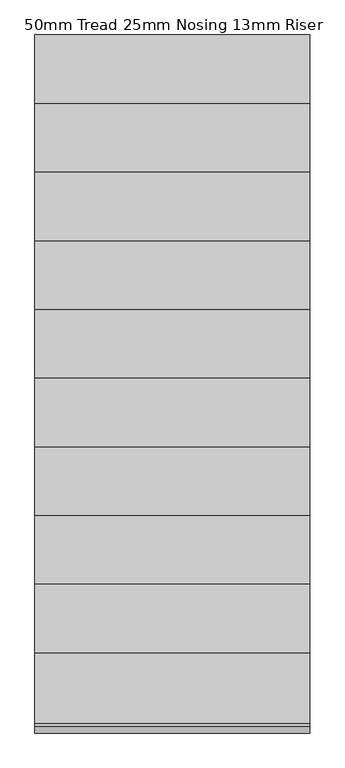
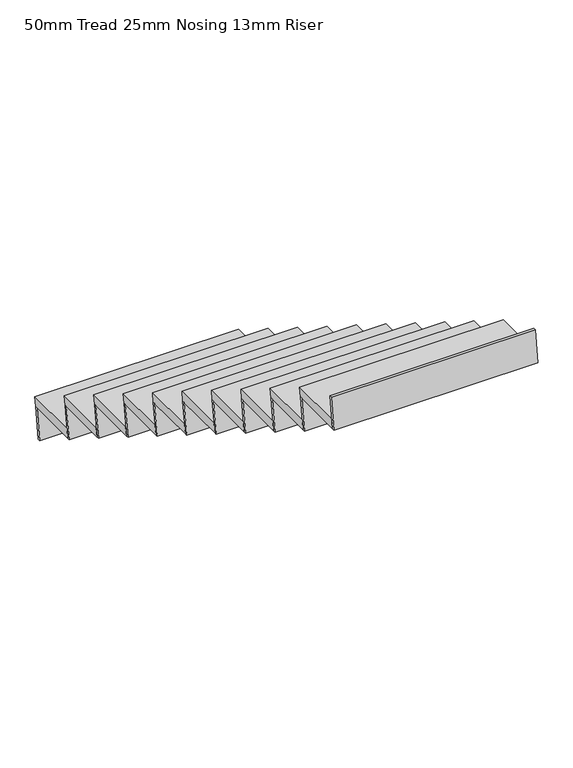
"""IFC4 building model written with IfcOpenShell, lengths in millimetres: stair flight geometry, 50mm Tread 25mm Nosing 13mm Riser."""

from ifc_helpers import new_model, si_unit, frame, origin, place, context, project, spatial, polyline, outline, extrude, source, transform, mapped, element, save


def stair_flight_50mm_tread_25mm_nosing_13mm_riser_8a1a16b7(model_context):
    return source(origin(), model_context, "Body", "SweptSolid", [
        extrude(outline(polyline([(29023.5799804, 2072.7272727), (29323.5799804, 2072.7272727), (29316.3431383, 2022.7272727), (29016.3431383, 2022.7272727), (29023.5799804, 2072.7272727)])), frame((26261.8999097, 0.0, 0.0), z_axis=(1.0, 0.0, 0.0), x_axis=(0.0, 1.0, 0.0)), (0.0, 0.0, 1.0), 1100.0),
        extrude(outline(polyline([(29316.3431383, 2022.7272727), (29291.3431383, 1850.0), (29278.7128872, 1850.0), (29303.7128872, 2022.7272727), (29316.3431383, 2022.7272727)])), frame((26261.8999097, 0.0, 0.0), z_axis=(1.0, 0.0, 0.0), x_axis=(0.0, 1.0, 0.0)), (0.0, 0.0, 1.0), 1100.0),
        extrude(outline(polyline([(29041.3431383, 2195.4545455), (29016.3431383, 2022.7272727), (29003.7128872, 2022.7272727), (29028.7128872, 2195.4545455), (29041.3431383, 2195.4545455)])), frame((26261.8999097, 0.0, 0.0), z_axis=(1.0, 0.0, 0.0), x_axis=(0.0, 1.0, 0.0)), (0.0, 0.0, 1.0), 1100.0),
        extrude(outline(polyline([(28748.5799804, 2245.4545455), (29048.5799804, 2245.4545455), (29041.3431383, 2195.4545455), (28741.3431383, 2195.4545455), (28748.5799804, 2245.4545455)])), frame((26261.8999097, 0.0, 0.0), z_axis=(1.0, 0.0, 0.0), x_axis=(0.0, 1.0, 0.0)), (0.0, 0.0, 1.0), 1100.0),
        extrude(outline(polyline([(28766.3431383, 2368.1818182), (28741.3431383, 2195.4545455), (28728.7128872, 2195.4545455), (28753.7128872, 2368.1818182), (28766.3431383, 2368.1818182)])), frame((26261.8999097, 0.0, 0.0), z_axis=(1.0, 0.0, 0.0), x_axis=(0.0, 1.0, 0.0)), (0.0, 0.0, 1.0), 1100.0),
        extrude(outline(polyline([(28473.5799804, 2418.1818182), (28773.5799804, 2418.1818182), (28766.3431383, 2368.1818182), (28466.3431383, 2368.1818182), (28473.5799804, 2418.1818182)])), frame((26261.8999097, 0.0, 0.0), z_axis=(1.0, 0.0, 0.0), x_axis=(0.0, 1.0, 0.0)), (0.0, 0.0, 1.0), 1100.0),
        extrude(outline(polyline([(28491.3431383, 2540.9090909), (28466.3431383, 2368.1818182), (28453.7128872, 2368.1818182), (28478.7128872, 2540.9090909), (28491.3431383, 2540.9090909)])), frame((26261.8999097, 0.0, 0.0), z_axis=(1.0, 0.0, 0.0), x_axis=(0.0, 1.0, 0.0)), (0.0, 0.0, 1.0), 1100.0),
        extrude(outline(polyline([(28198.5799804, 2590.9090909), (28498.5799804, 2590.9090909), (28491.3431383, 2540.9090909), (28191.3431383, 2540.9090909), (28198.5799804, 2590.9090909)])), frame((26261.8999097, 0.0, 0.0), z_axis=(1.0, 0.0, 0.0), x_axis=(0.0, 1.0, 0.0)), (0.0, 0.0, 1.0), 1100.0),
        extrude(outline(polyline([(28216.3431383, 2713.6363636), (28191.3431383, 2540.9090909), (28178.7128872, 2540.9090909), (28203.7128872, 2713.6363636), (28216.3431383, 2713.6363636)])), frame((26261.8999097, 0.0, 0.0), z_axis=(1.0, 0.0, 0.0), x_axis=(0.0, 1.0, 0.0)), (0.0, 0.0, 1.0), 1100.0),
        extrude(outline(polyline([(27923.5799804, 2763.6363636), (28223.5799804, 2763.6363636), (28216.3431383, 2713.6363636), (27916.3431383, 2713.6363636), (27923.5799804, 2763.6363636)])), frame((26261.8999097, 0.0, 0.0), z_axis=(1.0, 0.0, 0.0), x_axis=(0.0, 1.0, 0.0)), (0.0, 0.0, 1.0), 1100.0),
        extrude(outline(polyline([(27941.3431383, 2886.3636364), (27916.3431383, 2713.6363636), (27903.7128872, 2713.6363636), (27928.7128872, 2886.3636364), (27941.3431383, 2886.3636364)])), frame((26261.8999097, 0.0, 0.0), z_axis=(1.0, 0.0, 0.0), x_axis=(0.0, 1.0, 0.0)), (0.0, 0.0, 1.0), 1100.0),
        extrude(outline(polyline([(27648.5799804, 2936.3636364), (27948.5799804, 2936.3636364), (27941.3431383, 2886.3636364), (27641.3431383, 2886.3636364), (27648.5799804, 2936.3636364)])), frame((26261.8999097, 0.0, 0.0), z_axis=(1.0, 0.0, 0.0), x_axis=(0.0, 1.0, 0.0)), (0.0, 0.0, 1.0), 1100.0),
        extrude(outline(polyline([(27666.3431383, 3059.0909091), (27641.3431383, 2886.3636364), (27628.7128872, 2886.3636364), (27653.7128872, 3059.0909091), (27666.3431383, 3059.0909091)])), frame((26261.8999097, 0.0, 0.0), z_axis=(1.0, 0.0, 0.0), x_axis=(0.0, 1.0, 0.0)), (0.0, 0.0, 1.0), 1100.0),
        extrude(outline(polyline([(27373.5799804, 3109.0909091), (27673.5799804, 3109.0909091), (27666.3431383, 3059.0909091), (27366.3431383, 3059.0909091), (27373.5799804, 3109.0909091)])), frame((26261.8999097, 0.0, 0.0), z_axis=(1.0, 0.0, 0.0), x_axis=(0.0, 1.0, 0.0)), (0.0, 0.0, 1.0), 1100.0),
        extrude(outline(polyline([(27391.3431383, 3231.8181818), (27366.3431383, 3059.0909091), (27353.7128872, 3059.0909091), (27378.7128872, 3231.8181818), (27391.3431383, 3231.8181818)])), frame((26261.8999097, 0.0, 0.0), z_axis=(1.0, 0.0, 0.0), x_axis=(0.0, 1.0, 0.0)), (0.0, 0.0, 1.0), 1100.0),
        extrude(outline(polyline([(27098.5799804, 3281.8181818), (27398.5799804, 3281.8181818), (27391.3431383, 3231.8181818), (27091.3431383, 3231.8181818), (27098.5799804, 3281.8181818)])), frame((26261.8999097, 0.0, 0.0), z_axis=(1.0, 0.0, 0.0), x_axis=(0.0, 1.0, 0.0)), (0.0, 0.0, 1.0), 1100.0),
        extrude(outline(polyline([(27116.3431383, 3404.5454545), (27091.3431383, 3231.8181818), (27078.7128872, 3231.8181818), (27103.7128872, 3404.5454545), (27116.3431383, 3404.5454545)])), frame((26261.8999097, 0.0, 0.0), z_axis=(1.0, 0.0, 0.0), x_axis=(0.0, 1.0, 0.0)), (0.0, 0.0, 1.0), 1100.0),
        extrude(outline(polyline([(26823.5799804, 3454.5454545), (27123.5799804, 3454.5454545), (27116.3431383, 3404.5454545), (26816.3431383, 3404.5454545), (26823.5799804, 3454.5454545)])), frame((26261.8999097, 0.0, 0.0), z_axis=(1.0, 0.0, 0.0), x_axis=(0.0, 1.0, 0.0)), (0.0, 0.0, 1.0), 1100.0),
        extrude(outline(polyline([(26841.3431383, 3577.2727273), (26816.3431383, 3404.5454545), (26803.7128872, 3404.5454545), (26828.7128872, 3577.2727273), (26841.3431383, 3577.2727273)])), frame((26261.8999097, 0.0, 0.0), z_axis=(1.0, 0.0, 0.0), x_axis=(0.0, 1.0, 0.0)), (0.0, 0.0, 1.0), 1100.0),
        extrude(outline(polyline([(26566.3431383, 3750.0), (26541.3431383, 3577.2727273), (26528.7128872, 3577.2727273), (26553.7128872, 3750.0), (26566.3431383, 3750.0)])), frame((26261.8999097, 0.0, 0.0), z_axis=(1.0, 0.0, 0.0), x_axis=(0.0, 1.0, 0.0)), (0.0, 0.0, 1.0), 1100.0),
        extrude(outline(polyline([(26548.5799804, 3627.2727273), (26848.5799804, 3627.2727273), (26841.3431383, 3577.2727273), (26541.3431383, 3577.2727273), (26548.5799804, 3627.2727273)])), frame((26261.8999097, 0.0, 0.0), z_axis=(1.0, 0.0, 0.0), x_axis=(0.0, 1.0, 0.0)), (0.0, 0.0, 1.0), 1100.0),
    ])


if __name__ == "__main__":
    model = new_model("IFC4")
    model_context = context("Model", 3, world=origin())
    ifc_project = project(units=[si_unit("LENGTHUNIT", "METRE", prefix="MILLI")], contexts=[model_context])
    site = spatial("IfcSite", under=ifc_project)
    building = spatial("IfcBuilding", under=site)
    placement = place(None, origin())
    stair_flight_50mm_tread_25mm_nosing_13mm_riser_shape = stair_flight_50mm_tread_25mm_nosing_13mm_riser_8a1a16b7(model_context)
    element("IfcStairFlight", 1, ObjectType="50mm Tread 25mm Nosing 13mm Riser", at=placement, inside=building, context=model_context, shape_type="MappedRepresentation", body=[
        mapped(stair_flight_50mm_tread_25mm_nosing_13mm_riser_shape, transform((0.0, 0.0, 0.0), x_axis=(1.0, 0.0, 0.0), y_axis=(0.0, 1.0, 0.0), z_axis=(0.0, 0.0, 1.0))),
    ])
    save(model, "model.ifc")
